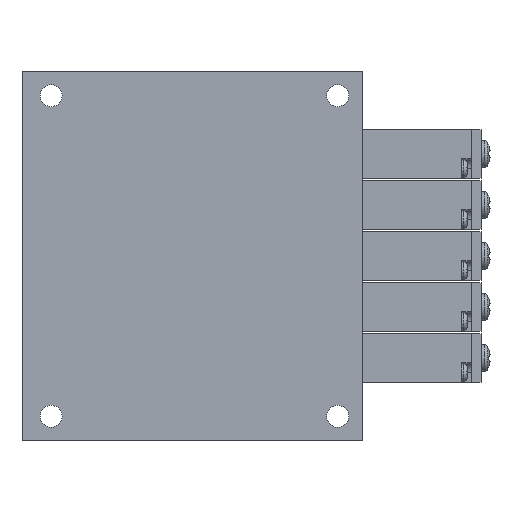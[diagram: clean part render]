
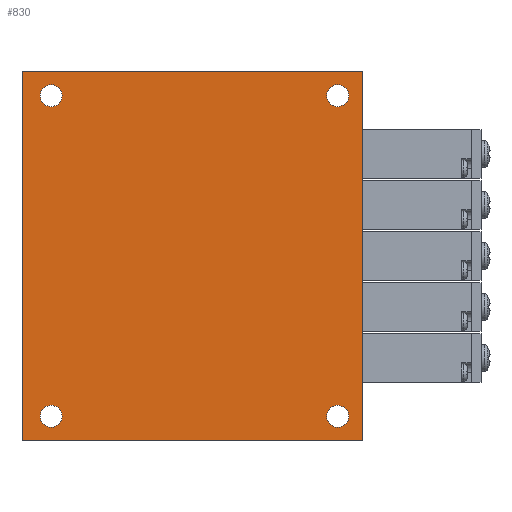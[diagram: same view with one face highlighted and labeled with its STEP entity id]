
A CAD part, front view. The second image highlights one B-rep face of the part: STEP entity #830.
In plain terms, the highlighted planar face has unit normal (0, -1, 0).
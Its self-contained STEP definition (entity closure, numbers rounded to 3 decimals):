
#830=ADVANCED_FACE('',(#1528,#1529,#1530,#1531,#1532),#1533,.F.);
#1528=FACE_OUTER_BOUND('',#2249,.T.);
#1529=FACE_BOUND('',#2250,.T.);
#1530=FACE_BOUND('',#2251,.T.);
#1531=FACE_BOUND('',#2252,.T.);
#1532=FACE_BOUND('',#2253,.T.);
#1533=PLANE('',#2254);
#2249=EDGE_LOOP('',(#4631,#4632,#4633,#4634));
#2250=EDGE_LOOP('',(#4635));
#2251=EDGE_LOOP('',(#4636));
#2252=EDGE_LOOP('',(#4637));
#2253=EDGE_LOOP('',(#4638));
#2254=AXIS2_PLACEMENT_3D('',#4639,#4640,#4641);
#4631=ORIENTED_EDGE('',*,*,#5431,.T.);
#4632=ORIENTED_EDGE('',*,*,#5432,.F.);
#4633=ORIENTED_EDGE('',*,*,#5413,.F.);
#4634=ORIENTED_EDGE('',*,*,#5433,.T.);
#4635=ORIENTED_EDGE('',*,*,#5434,.F.);
#4636=ORIENTED_EDGE('',*,*,#5435,.F.);
#4637=ORIENTED_EDGE('',*,*,#5427,.F.);
#4638=ORIENTED_EDGE('',*,*,#5425,.F.);
#4639=CARTESIAN_POINT('',(0.0,0.0,38.0));
#4640=DIRECTION('',(-0.0,1.0,0.0));
#4641=DIRECTION('',(1.0,0.0,0.0));
#5413=EDGE_CURVE('',#6651,#6653,#6654,.T.);
#5425=EDGE_CURVE('',#6676,#6676,#6677,.T.);
#5427=EDGE_CURVE('',#6680,#6680,#6681,.T.);
#5431=EDGE_CURVE('',#6688,#6689,#6690,.T.);
#5432=EDGE_CURVE('',#6653,#6689,#6691,.T.);
#5433=EDGE_CURVE('',#6651,#6688,#6692,.T.);
#5434=EDGE_CURVE('',#6693,#6693,#6694,.T.);
#5435=EDGE_CURVE('',#6695,#6695,#6696,.T.);
#6651=VERTEX_POINT('',#8752);
#6653=VERTEX_POINT('',#8755);
#6654=LINE('',#8756,#8757);
#6676=VERTEX_POINT('',#8780);
#6677=CIRCLE('',#8781,2.25);
#6680=VERTEX_POINT('',#8784);
#6681=CIRCLE('',#8785,2.25);
#6688=VERTEX_POINT('',#8792);
#6689=VERTEX_POINT('',#8793);
#6690=LINE('',#8794,#8795);
#6691=LINE('',#8796,#8797);
#6692=LINE('',#8798,#8799);
#6693=VERTEX_POINT('',#8800);
#6694=CIRCLE('',#8801,2.25);
#6695=VERTEX_POINT('',#8802);
#6696=CIRCLE('',#8803,2.25);
#8752=CARTESIAN_POINT('',(0.0,0.0,38.0));
#8755=CARTESIAN_POINT('',(70.0,0.0,38.0));
#8756=CARTESIAN_POINT('',(0.0,0.0,38.0));
#8757=VECTOR('',#9817,1.0);
#8780=CARTESIAN_POINT('',(65.0,0.0,35.25));
#8781=AXIS2_PLACEMENT_3D('',#9849,#9850,#9851);
#8784=CARTESIAN_POINT('',(6.0,0.0,-30.75));
#8785=AXIS2_PLACEMENT_3D('',#9855,#9856,#9857);
#8792=CARTESIAN_POINT('',(0.0,0.0,-38.0));
#8793=CARTESIAN_POINT('',(70.0,0.0,-38.0));
#8794=CARTESIAN_POINT('',(0.0,0.0,-38.0));
#8795=VECTOR('',#9867,1.0);
#8796=CARTESIAN_POINT('',(70.0,0.0,38.0));
#8797=VECTOR('',#9868,1.0);
#8798=CARTESIAN_POINT('',(0.0,0.0,38.0));
#8799=VECTOR('',#9869,1.0);
#8800=CARTESIAN_POINT('',(6.0,0.0,35.25));
#8801=AXIS2_PLACEMENT_3D('',#9870,#9871,#9872);
#8802=CARTESIAN_POINT('',(65.0,0.0,-30.75));
#8803=AXIS2_PLACEMENT_3D('',#9873,#9874,#9875);
#9817=DIRECTION('',(1.0,0.0,0.0));
#9849=CARTESIAN_POINT('',(65.0,0.0,33.0));
#9850=DIRECTION('',(0.0,-1.0,0.0));
#9851=DIRECTION('',(0.0,0.0,1.0));
#9855=CARTESIAN_POINT('',(6.0,0.0,-33.0));
#9856=DIRECTION('',(0.0,-1.0,0.0));
#9857=DIRECTION('',(0.0,0.0,1.0));
#9867=DIRECTION('',(1.0,0.0,0.0));
#9868=DIRECTION('',(0.0,0.0,-1.0));
#9869=DIRECTION('',(0.0,0.0,-1.0));
#9870=CARTESIAN_POINT('',(6.0,0.0,33.0));
#9871=DIRECTION('',(0.0,-1.0,0.0));
#9872=DIRECTION('',(0.0,0.0,1.0));
#9873=CARTESIAN_POINT('',(65.0,0.0,-33.0));
#9874=DIRECTION('',(0.0,-1.0,0.0));
#9875=DIRECTION('',(0.0,0.0,1.0));
